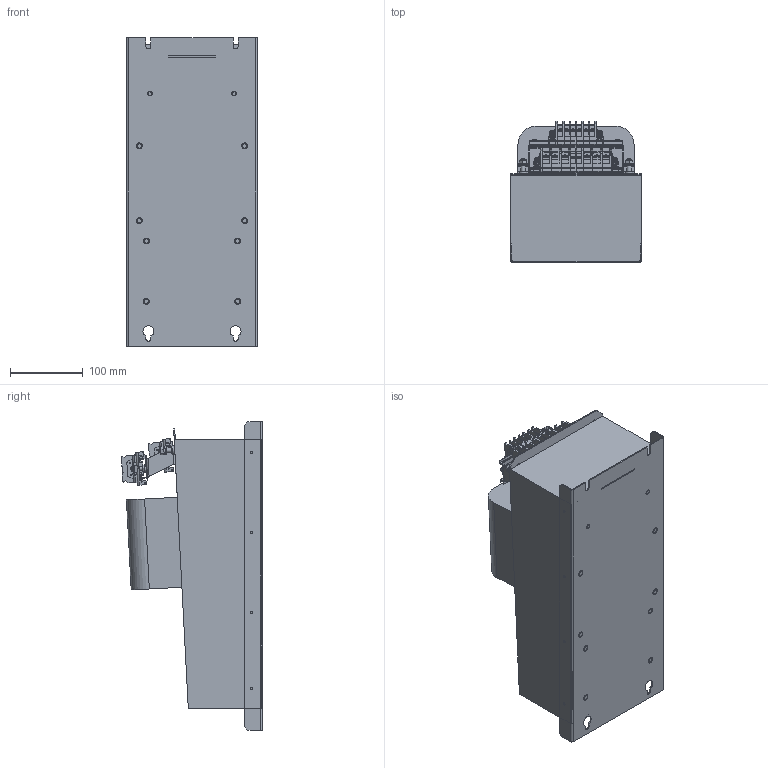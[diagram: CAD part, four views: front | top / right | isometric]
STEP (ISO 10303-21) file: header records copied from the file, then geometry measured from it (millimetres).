
FILE_DESCRIPTION((''),'2;1');
FILE_NAME('C:\SapWorkDir\Inventor\P01\B\EcosineEVO-BnL-E0XXJXX.stp','2016-09-30T10:40:56',('erika.jenzer'),(''),'Autodesk Inventor 2013','Autodesk Inventor 2013','');
FILE_SCHEMA(('AUTOMOTIVE_DESIGN { 1 0 10303 214 1 1 1 1 }'));
Length unit declared in the file: millimetre
Products named in the file (22): EcosineEVO-BnL-E0XXJXX1; 155252_BASE PLATE B WITH INSERTS; 155253_BASE PLATE B; 112655_INSERT BOLT FH M6X15; 112624_INSERT BOLT FH M5X12; 155257_HOUSING B WITH INSERTS; 112718_INSERT NUT SS M6; 155447_TERMINAL MODULE BC; 156544_DIN RAIL TH35-7.5 BC; 155445_DIN RAIL TH35-7.5 BC; 153988_DKB10; 153991_DKB30; 156473_END COVER DKB10E; 160160_SS9A; 155464_TDJ MODULE BC; 156545_DIN RAIL TH35-7.5 BC-J; DIN EN 1661 M5; 122859_EARTH SCREW M 6 X 25; 159497_INSULATING FOIL BC; 155463_TERMINAL SUPPORT C WITH INSERTS; 155461_TERMINAL SUPPORT BC; 163252_GLORIA B STP DUMMY
Assembly tree (52 placements, depth 4):
  EcosineEVO-BnL-E0XXJXX1
    155252_BASE PLATE B WITH INSERTS
      155253_BASE PLATE B
      112655_INSERT BOLT FH M6X15  x8
      112624_INSERT BOLT FH M5X12  x2
    155257_HOUSING B WITH INSERTS
      112718_INSERT NUT SS M6  x2
    155447_TERMINAL MODULE BC
      156544_DIN RAIL TH35-7.5 BC
        155445_DIN RAIL TH35-7.5 BC
        112624_INSERT BOLT FH M5X12  x2
      153988_DKB10  x2
      153991_DKB30  x6
      156473_END COVER DKB10E
      160160_SS9A  x2
    155464_TDJ MODULE BC
      156545_DIN RAIL TH35-7.5 BC-J
      153988_DKB10  x6
      156473_END COVER DKB10E
      160160_SS9A  x2
    DIN EN 1661 M5  x2
    122859_EARTH SCREW M 6 X 25  x2
    159497_INSULATING FOIL BC
    155463_TERMINAL SUPPORT C WITH INSERTS
      155461_TERMINAL SUPPORT BC
      112624_INSERT BOLT FH M5X12  x2
    163252_GLORIA B STP DUMMY
Bounding box: 180 x 194.03 x 425 mm (x, y, z)
Volume: 8965552.4 mm3; surface area: 641758.1 mm2
Topology: 46 solids, 46 shells, 3777 faces, 10186 edges, 6722 vertices
Faces by surface type: plane 2553, cylinder 920, torus 126, cone 106, sphere 64, bspline 8
Full cylindrical faces by diameter (mm): 1.5 x16, 2.9 x16, 3.5 x8, 3.7 x16, 3.9 x12, 4 x12, 4.134 x2, 4.917 x2, 5 x24, 5.459 x2, 5.5 x6, 6 x36, 6.206 x6, 6.4 x2, 6.5 x6, 7 x20, 7.475 x8, 8 x2, 8.2 x8, 8.7 x2, 9 x2, 9.49 x2, 11.05 x2, 12 x2
Entity records: 29074 total; most frequent: CARTESIAN_POINT 5535, DIRECTION 4779, ORIENTED_EDGE 4588, EDGE_CURVE 2294, AXIS2_PLACEMENT_3D 1603, VECTOR 1573, LINE 1573, VERTEX_POINT 1557
